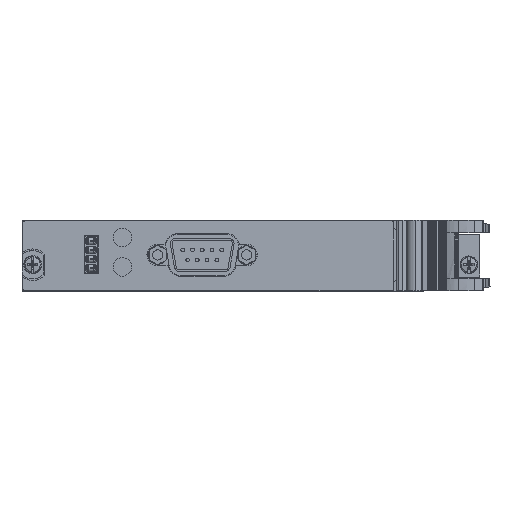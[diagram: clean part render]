
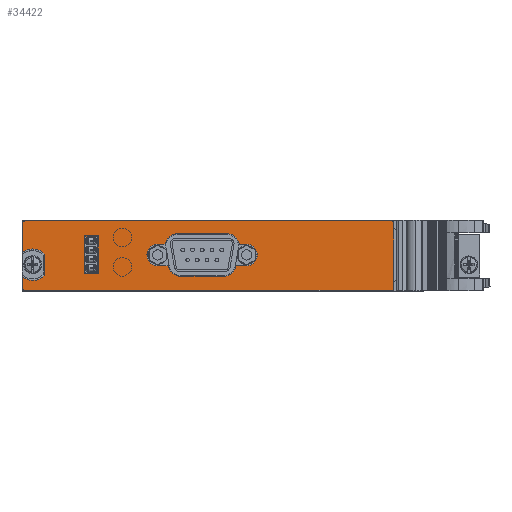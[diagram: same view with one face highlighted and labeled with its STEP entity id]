
A CAD part, left-side view. The second image highlights one B-rep face of the part: STEP entity #34422.
In plain terms, the highlighted planar face has unit normal (-1, 0, 0).
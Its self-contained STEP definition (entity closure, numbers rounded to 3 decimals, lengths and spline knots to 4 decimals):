
#4481=CARTESIAN_POINT('',(-0.215,0.5388,0.665));
#4482=DIRECTION('',(-1.,0.,0.));
#4483=DIRECTION('',(0.,0.,1.));
#4484=AXIS2_PLACEMENT_3D('',#4481,#4482,#4483);
#4486=DIRECTION('',(0.,1.,0.));
#4487=VECTOR('',#4486,4.07);
#4488=CARTESIAN_POINT('',(-0.215,-3.5312,0.685));
#4489=LINE('',#4488,#4487);
#4490=CARTESIAN_POINT('',(-0.215,-3.5312,0.665));
#4491=DIRECTION('',(-1.,0.,0.));
#4492=DIRECTION('',(0.,-1.,0.));
#4493=AXIS2_PLACEMENT_3D('',#4490,#4491,#4492);
#4495=DIRECTION('',(0.,0.,1.));
#4496=VECTOR('',#4495,0.728);
#4497=CARTESIAN_POINT('',(-0.215,-3.5512,-0.063));
#4498=LINE('',#4497,#4496);
#4499=CARTESIAN_POINT('',(-0.215,-3.5312,-0.063));
#4500=DIRECTION('',(-1.,0.,0.));
#4501=DIRECTION('',(0.,0.,-1.));
#4502=AXIS2_PLACEMENT_3D('',#4499,#4500,#4501);
#4504=DIRECTION('',(0.,-1.,0.));
#4505=VECTOR('',#4504,4.07);
#4506=CARTESIAN_POINT('',(-0.215,0.5388,-0.083));
#4507=LINE('',#4506,#4505);
#4508=CARTESIAN_POINT('',(-0.215,0.5388,-0.063));
#4509=DIRECTION('',(-1.,0.,0.));
#4510=DIRECTION('',(0.,1.,0.));
#4511=AXIS2_PLACEMENT_3D('',#4508,#4509,#4510);
#4513=DIRECTION('',(0.,0.,-1.));
#4514=VECTOR('',#4513,0.1295);
#4515=CARTESIAN_POINT('',(-0.215,0.5588,0.0665));
#4516=LINE('',#4515,#4514);
#4517=CARTESIAN_POINT('',(-0.215,0.4468,0.201));
#4518=DIRECTION('',(1.,0.,0.));
#4519=DIRECTION('',(0.,-0.737,-0.676));
#4520=AXIS2_PLACEMENT_3D('',#4517,#4518,#4519);
#4522=DIRECTION('',(0.,0.,-1.));
#4523=VECTOR('',#4522,0.2365);
#4524=CARTESIAN_POINT('',(-0.215,0.3178,0.3193));
#4525=LINE('',#4524,#4523);
#4526=CARTESIAN_POINT('',(-0.215,0.4468,0.201));
#4527=DIRECTION('',(1.,0.,0.));
#4528=DIRECTION('',(0.,0.64,0.768));
#4529=AXIS2_PLACEMENT_3D('',#4526,#4527,#4528);
#4531=DIRECTION('',(0.,0.,-1.));
#4532=VECTOR('',#4531,0.3295);
#4533=CARTESIAN_POINT('',(-0.215,0.5588,0.665));
#4534=LINE('',#4533,#4532);
#4535=CARTESIAN_POINT('',(-0.215,-0.9368,0.309));
#4536=DIRECTION('',(-1.,0.,0.));
#4537=DIRECTION('',(0.,0.,1.));
#4538=AXIS2_PLACEMENT_3D('',#4535,#4536,#4537);
#4540=DIRECTION('',(0.,-1.,0.));
#4541=VECTOR('',#4540,0.1144);
#4542=CARTESIAN_POINT('',(-0.215,-0.9368,0.19));
#4543=LINE('',#4542,#4541);
#4544=CARTESIAN_POINT('',(-0.215,-1.1908,0.216));
#4545=DIRECTION('',(-1.,0.,0.));
#4546=DIRECTION('',(0.,0.983,-0.183));
#4547=AXIS2_PLACEMENT_3D('',#4544,#4545,#4546);
#4549=DIRECTION('',(0.,-1.,0.));
#4550=VECTOR('',#4549,0.4758);
#4551=CARTESIAN_POINT('',(-0.215,-1.1908,0.074));
#4552=LINE('',#4551,#4550);
#4553=CARTESIAN_POINT('',(-0.215,-1.6666,0.216));
#4554=DIRECTION('',(-1.,0.,0.));
#4555=DIRECTION('',(0.,0.,-1.));
#4556=AXIS2_PLACEMENT_3D('',#4553,#4554,#4555);
#4558=DIRECTION('',(0.,-1.,0.));
#4559=VECTOR('',#4558,0.1144);
#4560=CARTESIAN_POINT('',(-0.215,-1.8062,0.19));
#4561=LINE('',#4560,#4559);
#4562=CARTESIAN_POINT('',(-0.215,-1.9206,0.309));
#4563=DIRECTION('',(-1.,0.,0.));
#4564=DIRECTION('',(0.,0.,-1.));
#4565=AXIS2_PLACEMENT_3D('',#4562,#4563,#4564);
#4567=DIRECTION('',(0.,1.,0.));
#4568=VECTOR('',#4567,0.0809);
#4569=CARTESIAN_POINT('',(-0.215,-1.9206,0.428));
#4570=LINE('',#4569,#4568);
#4571=CARTESIAN_POINT('',(-0.215,-1.7001,0.402));
#4572=DIRECTION('',(-1.,0.,0.));
#4573=DIRECTION('',(0.,-0.983,0.183));
#4574=AXIS2_PLACEMENT_3D('',#4571,#4572,#4573);
#4576=DIRECTION('',(0.,1.,0.));
#4577=VECTOR('',#4576,0.5428);
#4578=CARTESIAN_POINT('',(-0.215,-1.7001,0.544));
#4579=LINE('',#4578,#4577);
#4580=CARTESIAN_POINT('',(-0.215,-1.1573,0.402));
#4581=DIRECTION('',(-1.,0.,0.));
#4582=DIRECTION('',(0.,0.,1.));
#4583=AXIS2_PLACEMENT_3D('',#4580,#4581,#4582);
#4585=DIRECTION('',(0.,1.,0.));
#4586=VECTOR('',#4585,0.0809);
#4587=CARTESIAN_POINT('',(-0.215,-1.0177,0.428));
#4588=LINE('',#4587,#4586);
#4589=DIRECTION('',(0.,-1.,0.));
#4590=VECTOR('',#4589,0.138);
#4591=CARTESIAN_POINT('',(-0.215,-0.1312,0.113));
#4592=LINE('',#4591,#4590);
#4593=DIRECTION('',(0.,0.,1.));
#4594=VECTOR('',#4593,0.399);
#4595=CARTESIAN_POINT('',(-0.215,-0.2692,0.113));
#4596=LINE('',#4595,#4594);
#4597=DIRECTION('',(0.,1.,0.));
#4598=VECTOR('',#4597,0.138);
#4599=CARTESIAN_POINT('',(-0.215,-0.2692,0.512));
#4600=LINE('',#4599,#4598);
#4601=DIRECTION('',(0.,0.,-1.));
#4602=VECTOR('',#4601,0.399);
#4603=CARTESIAN_POINT('',(-0.215,-0.1312,0.512));
#4604=LINE('',#4603,#4602);
#27866=CARTESIAN_POINT('',(-0.215,0.5388,0.685));
#27867=CARTESIAN_POINT('',(-0.215,0.5588,0.665));
#27868=VERTEX_POINT('',#27866);
#27869=VERTEX_POINT('',#27867);
#27870=CARTESIAN_POINT('',(-0.215,0.5588,0.3355));
#27871=VERTEX_POINT('',#27870);
#27872=CARTESIAN_POINT('',(-0.215,0.3178,0.3193));
#27873=VERTEX_POINT('',#27872);
#27874=CARTESIAN_POINT('',(-0.215,0.3178,0.0827));
#27875=VERTEX_POINT('',#27874);
#27876=CARTESIAN_POINT('',(-0.215,0.5588,0.0665));
#27877=VERTEX_POINT('',#27876);
#27878=CARTESIAN_POINT('',(-0.215,0.5588,-0.063));
#27879=VERTEX_POINT('',#27878);
#27880=CARTESIAN_POINT('',(-0.215,0.5388,-0.083));
#27881=VERTEX_POINT('',#27880);
#27882=CARTESIAN_POINT('',(-0.215,-3.5312,-0.083));
#27883=VERTEX_POINT('',#27882);
#27884=CARTESIAN_POINT('',(-0.215,-3.5512,-0.063));
#27885=VERTEX_POINT('',#27884);
#27886=CARTESIAN_POINT('',(-0.215,-3.5512,0.665));
#27887=VERTEX_POINT('',#27886);
#27888=CARTESIAN_POINT('',(-0.215,-3.5312,0.685));
#27889=VERTEX_POINT('',#27888);
#27890=CARTESIAN_POINT('',(-0.215,-0.9368,0.428));
#27891=CARTESIAN_POINT('',(-0.215,-0.9368,0.19));
#27892=VERTEX_POINT('',#27890);
#27893=VERTEX_POINT('',#27891);
#27894=CARTESIAN_POINT('',(-0.215,-1.0512,0.19));
#27895=VERTEX_POINT('',#27894);
#27896=CARTESIAN_POINT('',(-0.215,-1.1908,0.074));
#27897=VERTEX_POINT('',#27896);
#27898=CARTESIAN_POINT('',(-0.215,-1.6666,0.074));
#27899=VERTEX_POINT('',#27898);
#27900=CARTESIAN_POINT('',(-0.215,-1.8062,0.19));
#27901=VERTEX_POINT('',#27900);
#27902=CARTESIAN_POINT('',(-0.215,-1.9206,0.19));
#27903=VERTEX_POINT('',#27902);
#27904=CARTESIAN_POINT('',(-0.215,-1.9206,0.428));
#27905=VERTEX_POINT('',#27904);
#27906=CARTESIAN_POINT('',(-0.215,-1.8397,0.428));
#27907=VERTEX_POINT('',#27906);
#27908=CARTESIAN_POINT('',(-0.215,-1.7001,0.544));
#27909=VERTEX_POINT('',#27908);
#27910=CARTESIAN_POINT('',(-0.215,-1.1573,0.544));
#27911=VERTEX_POINT('',#27910);
#27912=CARTESIAN_POINT('',(-0.215,-1.0177,0.428));
#27913=VERTEX_POINT('',#27912);
#27922=CARTESIAN_POINT('',(-0.215,-0.1312,0.113));
#27923=CARTESIAN_POINT('',(-0.215,-0.2692,0.113));
#27924=VERTEX_POINT('',#27922);
#27925=VERTEX_POINT('',#27923);
#27926=CARTESIAN_POINT('',(-0.215,-0.2692,0.512));
#27927=VERTEX_POINT('',#27926);
#27928=CARTESIAN_POINT('',(-0.215,-0.1312,0.512));
#27929=VERTEX_POINT('',#27928);
#34367=CARTESIAN_POINT('',(-0.215,0.4468,0.201));
#34368=DIRECTION('',(-1.,0.,0.));
#34369=DIRECTION('',(0.,0.,1.));
#34370=AXIS2_PLACEMENT_3D('',#34367,#34368,#34369);
#34371=PLANE('',#34370);
#34372=ORIENTED_EDGE('',*,*,#34207,.F.);
#34373=ORIENTED_EDGE('',*,*,#34222,.F.);
#34374=ORIENTED_EDGE('',*,*,#34236,.F.);
#34375=ORIENTED_EDGE('',*,*,#34250,.F.);
#34376=ORIENTED_EDGE('',*,*,#34264,.F.);
#34377=ORIENTED_EDGE('',*,*,#34278,.F.);
#34378=ORIENTED_EDGE('',*,*,#34292,.F.);
#34379=ORIENTED_EDGE('',*,*,#34306,.F.);
#34380=ORIENTED_EDGE('',*,*,#34320,.F.);
#34381=ORIENTED_EDGE('',*,*,#34334,.F.);
#34382=ORIENTED_EDGE('',*,*,#34348,.F.);
#34383=ORIENTED_EDGE('',*,*,#34361,.F.);
#34384=EDGE_LOOP('',(#34372,#34373,#34374,#34375,#34376,#34377,#34378,#34379,
#34380,#34381,#34382,#34383));
#34385=FACE_OUTER_BOUND('',#34384,.F.);
#34387=ORIENTED_EDGE('',*,*,#34386,.T.);
#34389=ORIENTED_EDGE('',*,*,#34388,.T.);
#34391=ORIENTED_EDGE('',*,*,#34390,.T.);
#34393=ORIENTED_EDGE('',*,*,#34392,.T.);
#34395=ORIENTED_EDGE('',*,*,#34394,.T.);
#34397=ORIENTED_EDGE('',*,*,#34396,.T.);
#34399=ORIENTED_EDGE('',*,*,#34398,.T.);
#34401=ORIENTED_EDGE('',*,*,#34400,.T.);
#34403=ORIENTED_EDGE('',*,*,#34402,.T.);
#34405=ORIENTED_EDGE('',*,*,#34404,.T.);
#34407=ORIENTED_EDGE('',*,*,#34406,.T.);
#34409=ORIENTED_EDGE('',*,*,#34408,.T.);
#34410=EDGE_LOOP('',(#34387,#34389,#34391,#34393,#34395,#34397,#34399,#34401,
#34403,#34405,#34407,#34409));
#34411=FACE_BOUND('',#34410,.F.);
#34413=ORIENTED_EDGE('',*,*,#34412,.T.);
#34415=ORIENTED_EDGE('',*,*,#34414,.T.);
#34417=ORIENTED_EDGE('',*,*,#34416,.T.);
#34419=ORIENTED_EDGE('',*,*,#34418,.T.);
#34420=EDGE_LOOP('',(#34413,#34415,#34417,#34419));
#34421=FACE_BOUND('',#34420,.F.);
#34422=ADVANCED_FACE('',(#34385,#34411,#34421),#34371,.T.);
#4485=CIRCLE('',#4484,0.02);
#4494=CIRCLE('',#4493,0.02);
#4503=CIRCLE('',#4502,0.02);
#4512=CIRCLE('',#4511,0.02);
#4521=CIRCLE('',#4520,0.175);
#4530=CIRCLE('',#4529,0.175);
#4539=CIRCLE('',#4538,0.119);
#4548=CIRCLE('',#4547,0.142);
#4557=CIRCLE('',#4556,0.142);
#4566=CIRCLE('',#4565,0.119);
#4575=CIRCLE('',#4574,0.142);
#4584=CIRCLE('',#4583,0.142);
#34207=EDGE_CURVE('',#27868,#27869,#4485,.T.);
#34222=EDGE_CURVE('',#27889,#27868,#4489,.T.);
#34236=EDGE_CURVE('',#27887,#27889,#4494,.T.);
#34250=EDGE_CURVE('',#27885,#27887,#4498,.T.);
#34264=EDGE_CURVE('',#27883,#27885,#4503,.T.);
#34278=EDGE_CURVE('',#27881,#27883,#4507,.T.);
#34292=EDGE_CURVE('',#27879,#27881,#4512,.T.);
#34306=EDGE_CURVE('',#27877,#27879,#4516,.T.);
#34320=EDGE_CURVE('',#27875,#27877,#4521,.T.);
#34334=EDGE_CURVE('',#27873,#27875,#4525,.T.);
#34348=EDGE_CURVE('',#27871,#27873,#4530,.T.);
#34361=EDGE_CURVE('',#27869,#27871,#4534,.T.);
#34386=EDGE_CURVE('',#27892,#27893,#4539,.T.);
#34388=EDGE_CURVE('',#27893,#27895,#4543,.T.);
#34390=EDGE_CURVE('',#27895,#27897,#4548,.T.);
#34392=EDGE_CURVE('',#27897,#27899,#4552,.T.);
#34394=EDGE_CURVE('',#27899,#27901,#4557,.T.);
#34396=EDGE_CURVE('',#27901,#27903,#4561,.T.);
#34398=EDGE_CURVE('',#27903,#27905,#4566,.T.);
#34400=EDGE_CURVE('',#27905,#27907,#4570,.T.);
#34402=EDGE_CURVE('',#27907,#27909,#4575,.T.);
#34404=EDGE_CURVE('',#27909,#27911,#4579,.T.);
#34406=EDGE_CURVE('',#27911,#27913,#4584,.T.);
#34408=EDGE_CURVE('',#27913,#27892,#4588,.T.);
#34412=EDGE_CURVE('',#27924,#27925,#4592,.T.);
#34414=EDGE_CURVE('',#27925,#27927,#4596,.T.);
#34416=EDGE_CURVE('',#27927,#27929,#4600,.T.);
#34418=EDGE_CURVE('',#27929,#27924,#4604,.T.);
